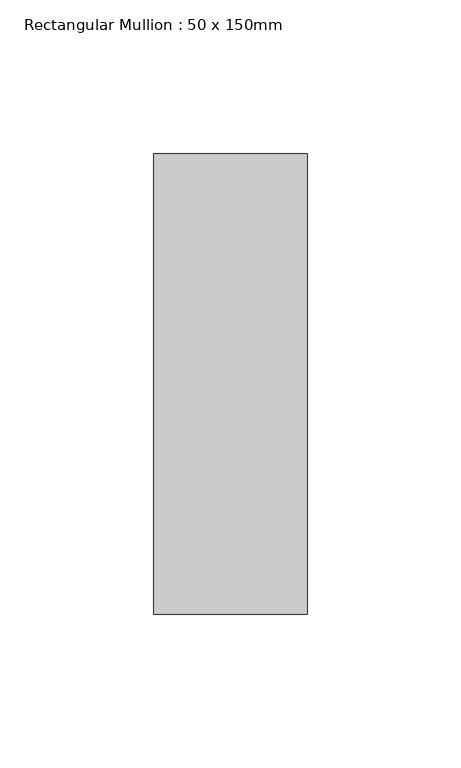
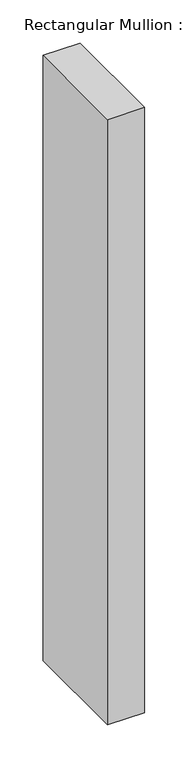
"""IFC4 building model written with IfcOpenShell, lengths in millimetres: member geometry, Rectangular Mullion : 50 x 150mm."""

from ifc_helpers import new_model, si_unit, frame, origin, place, context, project, spatial, polyline, outline, extrude, source, transform, mapped, element, save


def rectangular_mullion_50_x_150mm_5cce3f76(model_context):
    return source(origin(), model_context, "Body", "SweptSolid", [
        extrude(outline(polyline([(0.0, 75.0), (0.0, -75.0), (-50.0, -75.0), (-50.0, 75.0), (0.0, 75.0)])), frame((0.0, 0.0, -857.9520935), z_axis=(0.0, 0.0, 1.0), x_axis=(1.0, 0.0, 0.0)), (0.0, 0.0, 1.0), 857.9520935),
    ])


if __name__ == "__main__":
    model = new_model("IFC4")
    model_context = context("Model", 3, world=origin())
    ifc_project = project(units=[si_unit("LENGTHUNIT", "METRE", prefix="MILLI")], contexts=[model_context])
    site = spatial("IfcSite", under=ifc_project)
    building = spatial("IfcBuilding", under=site)
    placement = place(None, origin())
    rectangular_mullion_50_x_150mm_shape = rectangular_mullion_50_x_150mm_5cce3f76(model_context)
    element("IfcMember", 1, ObjectType="Rectangular Mullion : 50 x 150mm", at=placement, inside=building, context=model_context, shape_type="MappedRepresentation", body=[
        mapped(rectangular_mullion_50_x_150mm_shape, transform((0.0, 0.0, 0.0), x_axis=(1.0, 0.0, 0.0), y_axis=(0.0, 1.0, 0.0), z_axis=(0.0, 0.0, 1.0))),
    ])
    save(model, "model.ifc")
